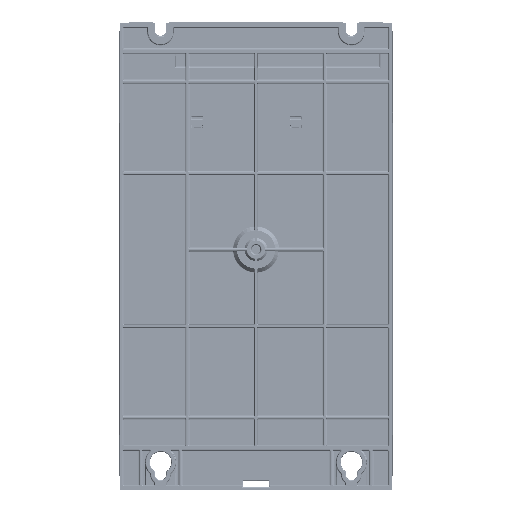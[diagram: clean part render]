
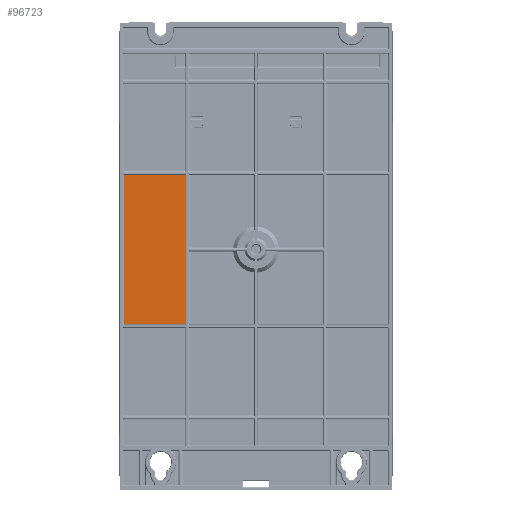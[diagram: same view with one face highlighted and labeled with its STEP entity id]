
A CAD part, front view. The second image highlights one B-rep face of the part: STEP entity #96723.
In plain terms, the highlighted planar face has unit normal (0, -1, 0).
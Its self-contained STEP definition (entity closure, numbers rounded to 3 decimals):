
#43367 = EDGE_CURVE ( 'NONE', #374082, #302435, #432432, .T. ) ;
#43998 = ORIENTED_EDGE ( 'NONE', *, *, #343287, .T. ) ;
#46085 = FACE_OUTER_BOUND ( 'NONE', #168016, .T. ) ;
#67866 = LINE ( 'NONE', #128448, #509884 ) ;
#80021 = VECTOR ( 'NONE', #265371, 1000. ) ;
#83947 = DIRECTION ( 'NONE',  ( 1., 0., 0. ) ) ;
#96723 = ADVANCED_FACE ( 'NONE', ( #46085 ), #130260, .F. ) ;
#102131 = VERTEX_POINT ( 'NONE', #318094 ) ;
#125062 = VECTOR ( 'NONE', #426984, 1000. ) ;
#128448 = CARTESIAN_POINT ( 'NONE',  ( -45.95, 0., -48.559 ) ) ;
#130260 = PLANE ( 'NONE',  #133229 ) ;
#133229 = AXIS2_PLACEMENT_3D ( 'NONE', #217218, #571994, #307945 ) ;
#153496 = DIRECTION ( 'NONE',  ( 0., 0., -1. ) ) ;
#155417 = CARTESIAN_POINT ( 'NONE',  ( -86.409, 0., 148.5 ) ) ;
#168016 = EDGE_LOOP ( 'NONE', ( #520434, #43998, #527860, #552400 ) ) ;
#217218 = CARTESIAN_POINT ( 'NONE',  ( 90., 0., 148.5 ) ) ;
#251322 = CARTESIAN_POINT ( 'NONE',  ( 90., 0., 48.559 ) ) ;
#255017 = CARTESIAN_POINT ( 'NONE',  ( -46.441, 0., 48.559 ) ) ;
#265371 = DIRECTION ( 'NONE',  ( 0., 0., 1. ) ) ;
#302435 = VERTEX_POINT ( 'NONE', #255017 ) ;
#307945 = DIRECTION ( 'NONE',  ( 0., 0., 1. ) ) ;
#318094 = CARTESIAN_POINT ( 'NONE',  ( -86.409, 0., 48.559 ) ) ;
#343287 = EDGE_CURVE ( 'NONE', #302435, #102131, #360008, .T. ) ;
#360008 = LINE ( 'NONE', #251322, #125062 ) ;
#364781 = VERTEX_POINT ( 'NONE', #521961 ) ;
#374082 = VERTEX_POINT ( 'NONE', #563764 ) ;
#385266 = VECTOR ( 'NONE', #153496, 1000. ) ;
#399051 = LINE ( 'NONE', #155417, #385266 ) ;
#426984 = DIRECTION ( 'NONE',  ( -1., 0., 0. ) ) ;
#430442 = EDGE_CURVE ( 'NONE', #102131, #364781, #399051, .T. ) ;
#432432 = LINE ( 'NONE', #529582, #80021 ) ;
#483066 = EDGE_CURVE ( 'NONE', #364781, #374082, #67866, .T. ) ;
#509884 = VECTOR ( 'NONE', #83947, 1000. ) ;
#520434 = ORIENTED_EDGE ( 'NONE', *, *, #43367, .T. ) ;
#521961 = CARTESIAN_POINT ( 'NONE',  ( -86.409, 0., -48.559 ) ) ;
#527860 = ORIENTED_EDGE ( 'NONE', *, *, #430442, .T. ) ;
#529582 = CARTESIAN_POINT ( 'NONE',  ( -46.441, 0., 49.05 ) ) ;
#552400 = ORIENTED_EDGE ( 'NONE', *, *, #483066, .T. ) ;
#563764 = CARTESIAN_POINT ( 'NONE',  ( -46.441, 0., -48.559 ) ) ;
#571994 = DIRECTION ( 'NONE',  ( 0., 1., 0. ) ) ;
